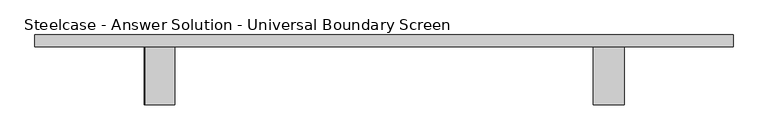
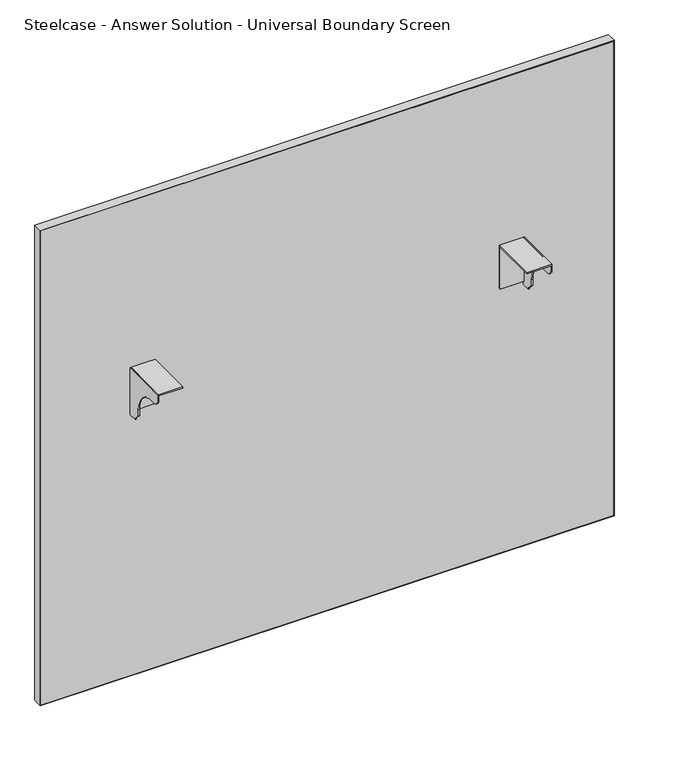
"""IFC4 building model written with IfcOpenShell, lengths in millimetres: furniture geometry, Steelcase - Answer Solution - Universal Boundary Screen : 42H x 48W."""

from ifc_helpers import new_model, si_unit, point, frame, frame_2d, origin, place, context, project, spatial, polyline, circle_curve, trimmed, segment, composite_curve, outline, extrude, source, transform, mapped, element, save


def steelcase_answer_solution_universal_boundary_screen_9e3d6acf(model_context):
    return source(origin(), model_context, "Body", "SweptSolid", [
        extrude(outline(polyline([(-103.1670434, 689.3558876), (-103.1670434, 692.1499758), (-1.5668826, 692.1499758), (-1.5668826, 595.5029317), (-4.1079736, 595.5029317), (-4.1079736, 689.3558876), (-103.1670434, 689.3558876)])), frame((895.8336711, 0.0, 0.0), z_axis=(1.0, 0.0, 0.0), x_axis=(0.0, 1.0, 0.0)), (0.0, 0.0, 1.0), 53.3444116),
        extrude(outline(composite_curve([segment(polyline([(-103.1670434, 679.2814802), (-103.1670434, 692.1499758), (-1.5668826, 692.1499758), (-1.5668826, 586.9634093), (-19.8232934, 586.9634093), (-19.8232934, 589.7574248), (-32.0458032, 601.9799346), (-32.0458032, 615.7814802)]), True, "CONTINUOUS"), segment(trimmed(circle_curve(frame_2d((-82.8458032, 615.7814802)), 50.8), [point((-32.0458032, 615.7814802))], [point((-82.8458032, 666.5814802))], True, "CARTESIAN"), True, "CONTINUOUS"), segment(polyline([(-82.8458032, 666.5814802), (-90.4670434, 666.5814802)]), True, "CONTINUOUS"), segment(trimmed(circle_curve(frame_2d((-90.4670434, 679.2814802)), 12.7), [point((-90.4670434, 666.5814802))], [point((-103.1670434, 679.2814802))], False, "CARTESIAN"), True, "CONTINUOUS")], self_intersect=False)), frame((946.6328959, 0.0, 0.0), z_axis=(1.0, 0.0, 0.0), x_axis=(0.0, 1.0, 0.0)), (0.0, 0.0, 1.0), 2.5451868),
        extrude(outline(polyline([(-103.1670434, 689.3558876), (-103.1670434, 692.1499758), (-1.5668826, 692.1499758), (-1.5668826, 595.5029317), (-4.1079736, 595.5029317), (-4.1079736, 689.3558876), (-103.1670434, 689.3558876)])), frame((113.5232694, 0.0, 0.0), z_axis=(1.0, 0.0, 0.0), x_axis=(0.0, 1.0, 0.0)), (0.0, 0.0, 1.0), 50.7992249),
        extrude(outline(composite_curve([segment(polyline([(-103.1670434, 679.2814802), (-103.1670434, 692.1499758), (-1.5668826, 692.1499758), (-1.5668826, 586.9634093), (-19.8232934, 586.9634093), (-19.8232934, 589.7574248), (-32.0458032, 601.9799346), (-32.0458032, 615.7814802)]), True, "CONTINUOUS"), segment(trimmed(circle_curve(frame_2d((-82.8458032, 615.7814802)), 50.8), [point((-32.0458032, 615.7814802))], [point((-82.8458032, 666.5814802))], True, "CARTESIAN"), True, "CONTINUOUS"), segment(polyline([(-82.8458032, 666.5814802), (-90.4670434, 666.5814802)]), True, "CONTINUOUS"), segment(trimmed(circle_curve(frame_2d((-90.4670434, 679.2814802)), 12.7), [point((-90.4670434, 666.5814802))], [point((-103.1670434, 679.2814802))], False, "CARTESIAN"), True, "CONTINUOUS")], self_intersect=False)), frame((110.9780827, 0.0, 0.0), z_axis=(1.0, 0.0, 0.0), x_axis=(0.0, 1.0, 0.0)), (0.0, 0.0, 1.0), 2.5451868),
        extrude(outline(polyline([(-78.5293422, 18.9055112), (1138.6855076, 18.9055112), (1138.6855076, -1.5668826), (-78.5293422, -1.5668826), (-78.5293422, 18.9055112)])), frame((0.0, 0.0, 1.016), z_axis=(0.0, 0.0, 1.0), x_axis=(1.0, 0.0, 0.0)), (0.0, 0.0, 1.0), 1064.7914249),
        extrude(outline(polyline([(1066.8, 1139.6780827), (1066.8, -79.5219173), (0.0, -79.5219173), (0.0, 1139.6780827), (1066.8, 1139.6780827)]), holes=[polyline([(1065.8074249, 1138.6855076), (1.016, 1138.6855076), (1.016, -78.5293422), (1065.8074249, -78.5293422), (1065.8074249, 1138.6855076)])]), frame((0.0, -1.5668826, 0.0), z_axis=(0.0, 1.0, 0.0), x_axis=(0.0, 0.0, 1.0)), (0.0, 0.0, 1.0), 20.4723938),
    ])


if __name__ == "__main__":
    model = new_model("IFC4")
    model_context = context("Model", 3, world=origin())
    ifc_project = project(units=[si_unit("LENGTHUNIT", "METRE", prefix="MILLI")], contexts=[model_context])
    site = spatial("IfcSite", under=ifc_project)
    building = spatial("IfcBuilding", under=site)
    placement = place(None, origin())
    steelcase_answer_solution_universal_boundary_screen_shape = steelcase_answer_solution_universal_boundary_screen_9e3d6acf(model_context)
    element("IfcFurniture", 1, ObjectType="Steelcase - Answer Solution - Universal Boundary Screen : 42H x 48W", at=placement, inside=building, context=model_context, shape_type="MappedRepresentation", body=[
        mapped(steelcase_answer_solution_universal_boundary_screen_shape, transform((0.0, 0.0, 0.0), x_axis=(1.0, 0.0, 0.0), y_axis=(0.0, 1.0, 0.0), z_axis=(0.0, 0.0, 1.0))),
    ])
    save(model, "model.ifc")
